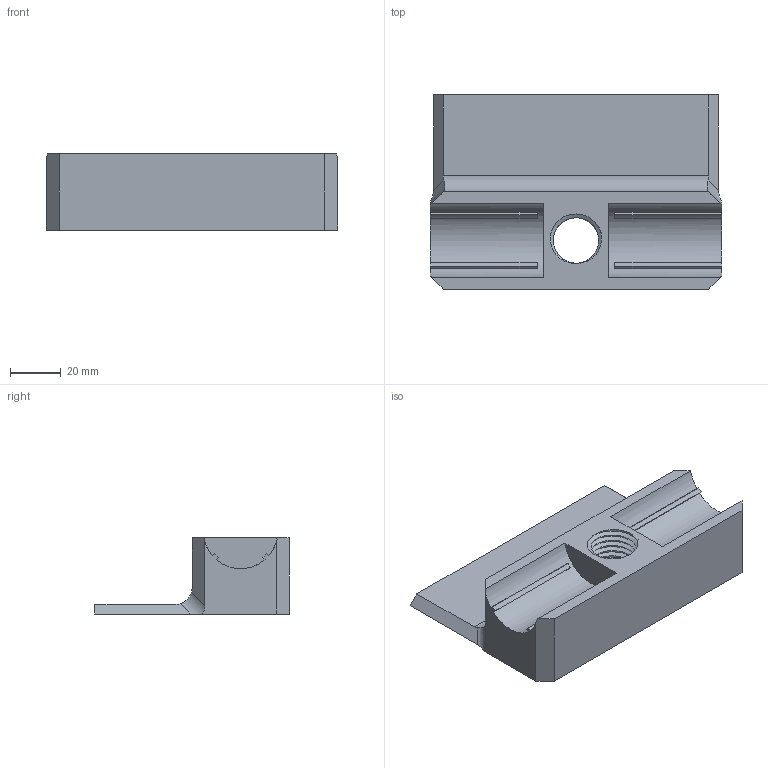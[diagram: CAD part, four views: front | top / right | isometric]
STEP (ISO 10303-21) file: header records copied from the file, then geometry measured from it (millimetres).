
FILE_DESCRIPTION(/* description */ ('STEP AP242 Edition 2','CAx-IF Rec.Pracs.---Representation and Presentation of Product Manufacturing Information (PMI)---4.0---2014-10-13','CAx-IF Rec.Pracs.---3D Tessellated Geometry---0.4---2014-09-14','2;1','CAx-IF Rec.Pracs.---User Defined Attributes---1.5---2016-08-15'),/* implementation_level */ '2;1');
FILE_NAME(/* name */ 'wall edge - boundary edge lower',/* time_stamp */ '2026-06-03T10:26:41Z',/* author */ (''),/* organization */ (''),/* preprocessor_version */ 'ST-DEVELOPER v20',/* originating_system */ 'ONSHAPE BY PTC INC, 1.215',/* authorisation */ ' ');
FILE_SCHEMA (('AP242_MANAGED_MODEL_BASED_3D_ENGINEERING_MIM_LF { 1 0 10303 442 3 1 4 }'));
Length unit declared in the file: metre
Products named in the file (1): boundary edge lower
Bounding box: 114.3 x 76.2 x 29.84 mm (x, y, z)
Volume: 113064.9 mm3; surface area: 29703.7 mm2
Topology: 1 solids, 1 shells, 65 faces, 197 edges, 134 vertices
Faces by surface type: cylinder 35, plane 28, bspline 2
Entity records: 6065 total; most frequent: CARTESIAN_POINT 4337, ORIENTED_EDGE 394, DIRECTION 312, EDGE_CURVE 197, VERTEX_POINT 134, AXIS2_PLACEMENT_3D 108, LINE 96, VECTOR 96
